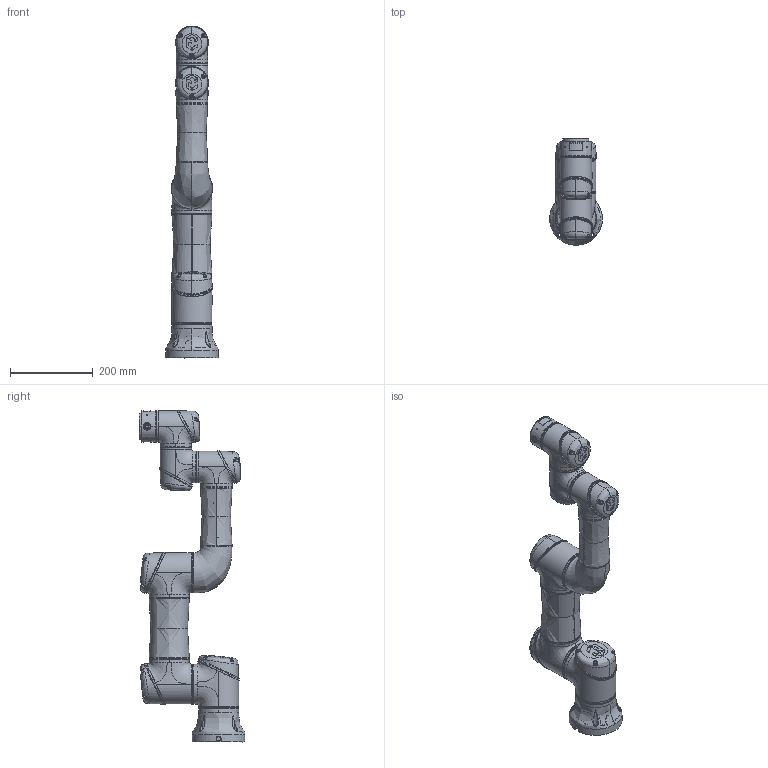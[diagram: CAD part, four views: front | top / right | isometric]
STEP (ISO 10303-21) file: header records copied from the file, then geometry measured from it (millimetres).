
FILE_DESCRIPTION (( 'STEP AP214' ), '1' );
FILE_NAME ('EC_掛极EC63_V1.2.STEP', '2023-05-17T02:38:32', ( '' ), ( '' ), 'SwSTEP 2.0', 'SolidWorks 2017', '' );
FILE_SCHEMA (( 'AUTOMOTIVE_DESIGN' ));
Length unit declared in the file: millimetre
Products named in the file (15): EC_掛极EC63_V1.2; EC63-Link2A_Link2B_J4; EC63-J5; EC63-J1; EC63-J6; EC63-J2_Link1_J3; EC63-Base; EC63-Flange
Assembly tree (7 placements, depth 2):
  EC_掛极EC63_V1.2
    EC63-Base
    EC63-J1
    EC63-J2_Link1_J3
    EC63-Link2A_Link2B_J4
    EC63-J5
    EC63-J6
    EC63-Flange
  EC63-Link2A_Link2B_J4
  EC63-J5
  EC63-J1
  EC63-J6
Bounding box: 127.7 x 256.34 x 803.53 mm (x, y, z)
Volume: 7470324.7 mm3; surface area: 541895.6 mm2
Topology: 11 solids, 36 shells, 2678 faces, 6320 edges, 3870 vertices
Faces by surface type: bspline 1601, plane 604, cylinder 241, cone 222, torus 10
Entity records: 242405 total; most frequent: CARTESIAN_POINT 165005, ORIENTED_EDGE 12608, DIRECTION 6344, EDGE_CURVE 6304, VERTEX_POINT 3870, B_SPLINE_CURVE_WITH_KNOTS 3357, EDGE_LOOP 2864, FACE_OUTER_BOUND 2678
